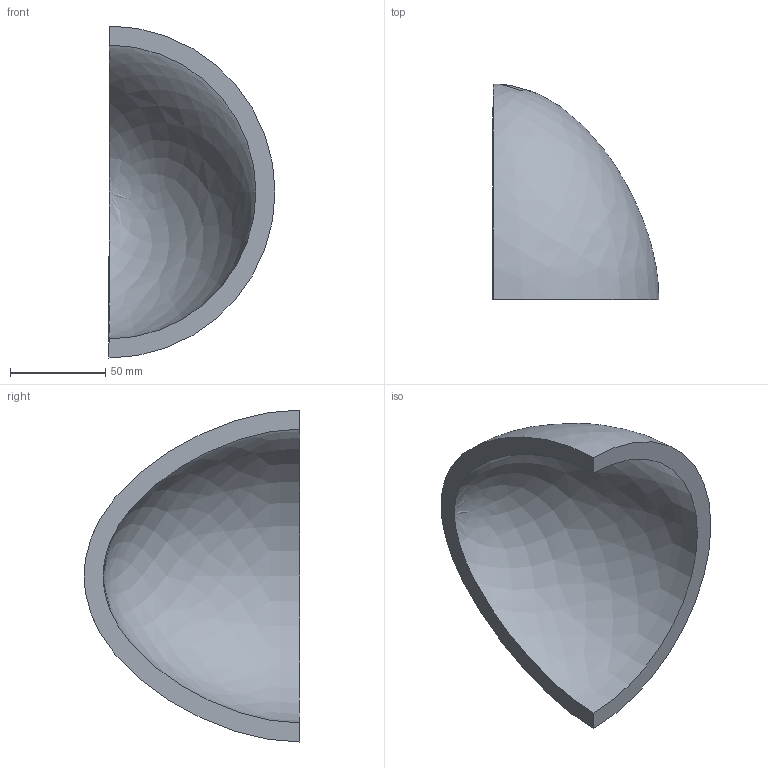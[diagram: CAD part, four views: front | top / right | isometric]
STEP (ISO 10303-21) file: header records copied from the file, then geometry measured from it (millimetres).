
FILE_DESCRIPTION(('CATIA V5 STEP Exchange'),'2;1');
FILE_NAME('C:\_Andres\UNIVERSIDAD\IQS\ASIGNATURAS\DAO\EXF\EXF-16172c\2inicio\Gumá_Abizanda_Ej10_v13.stp','2017-03-05T22:31:11+00:00',('none'),('none'),'CATIA Version 5-6 Release 2014 SP1 HF18','CATIA V5 STEP AP203','none');
FILE_SCHEMA(('CONFIG_CONTROL_DESIGN'));
Length unit declared in the file: millimetre
Products named in the file (1): Gumá_Abizanda_Ej10_v13
Bounding box: 87 x 113 x 174 mm (x, y, z)
Volume: 246239.9 mm3; surface area: 54875.4 mm2
Topology: 1 solids, 1 shells, 4 faces, 10 edges, 6 vertices
Faces by surface type: revolution 2, plane 2
Entity records: 239 total; most frequent: CARTESIAN_POINT 117, ORIENTED_EDGE 16, DIRECTION 10, EDGE_CURVE 8, B_SPLINE_CURVE_WITH_KNOTS 6, VERTEX_POINT 6, AXIS2_PLACEMENT_3D 5, ADVANCED_FACE 4
